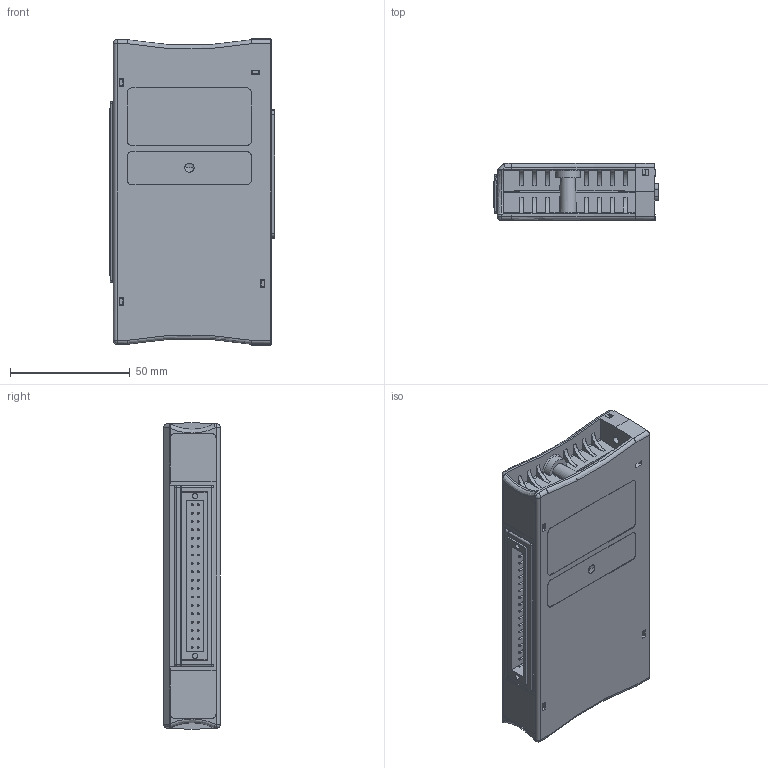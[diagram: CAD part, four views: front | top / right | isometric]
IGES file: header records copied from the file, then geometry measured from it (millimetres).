
Start section:  PTC IGES file: cd_cfp-cb2.igs
Global section: file name: cd_cfp-cb2.igs; native system: Pro/ENGINEER by Parametric Technology Corporation; preprocessor: 2006300; author: scarrasc; organization: Unknown; date: 20080626.163236; units: inch
Bounding box: 69.17 x 23.62 x 127.97 mm (x, y, z)
Surface area: 60675.2 mm2 (no closed solid volume)
Topology: 0 solids, 0 shells, 2138 faces, 10946 edges, 10931 vertices
Faces by surface type: bspline 1355, revolution 775, extrusion 8
